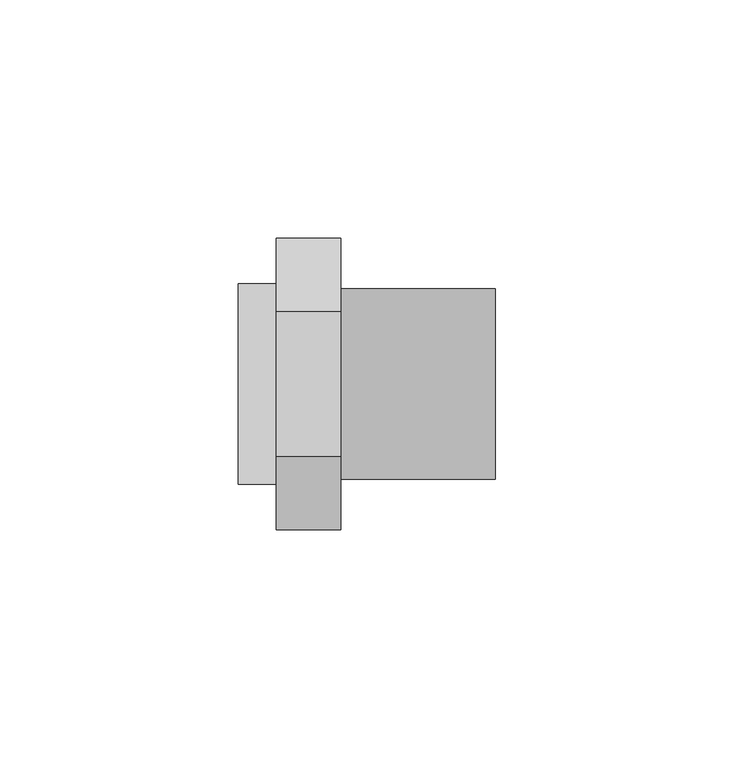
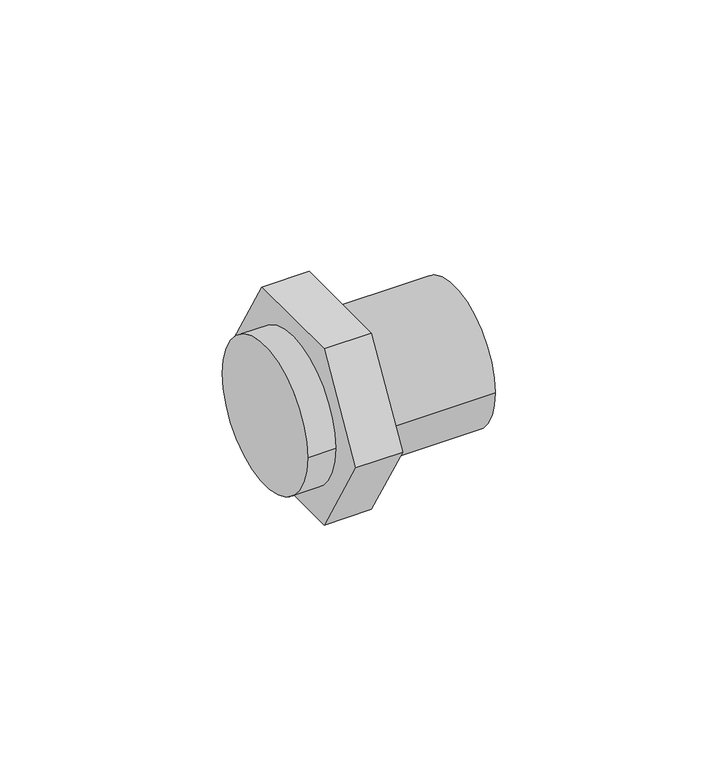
"""IFC4 building model written with IfcOpenShell, lengths in millimetres: pipe fitting geometry, 01101008 : Uniões múltiplas F/M/F."""

import ifcopenshell
import ifcopenshell.guid

model = None  # the IFC model being written
_history = None  # IfcOwnerHistory: only IFC2X3 demands one
_inside = {}  # id of a spatial element -> (the spatial element, [elements in it])
_under = {}  # id of a project, library or spatial element -> (it, [spatial elements below it])
_declared = {}  # id of a project -> (the project, [libraries it declares])
_typed = {}  # id of a type object -> (the type object, [elements of that type])
_made_of = {}  # id of a material, layer set ... -> (it, [elements and type objects made of it])


def new_model(schema):
    """Start an empty IFC model of exactly this schema.

    Asked for "IFC4X3", IfcOpenShell would pick the latest addendum, in which some entities
    have other attributes; the version numbers below select the first issue.
    IFC2X3 requires an IfcOwnerHistory on every rooted entity: one is made here for all.
    """
    global model, _history
    if schema == "IFC4X3":
        model = ifcopenshell.file(schema_version=(4, 3, 0, 0))
    else:
        model = ifcopenshell.file(schema=schema)
    _inside.clear()
    _under.clear()
    _declared.clear()
    _typed.clear()
    _made_of.clear()
    _history = None
    if model.schema == "IFC2X3":
        org = make("IfcOrganization", Name="unknown")
        user = make(
            "IfcPersonAndOrganization",
            ThePerson=make("IfcPerson", FamilyName="unknown"),
            TheOrganization=org,
        )
        app = make(
            "IfcApplication",
            ApplicationDeveloper=org,
            Version="unknown",
            ApplicationFullName="unknown",
            ApplicationIdentifier="unknown",
        )
        _history = make(
            "IfcOwnerHistory",
            OwningUser=user,
            OwningApplication=app,
            ChangeAction="ADDED",
            CreationDate=0,
        )
    return model


def make(cls, **values):
    """One entity of the class cls with the attributes given. An attribute that is None is left unset."""
    return model.create_entity(
        cls, **{name: value for name, value in values.items() if value is not None}
    )


def rooted(cls, **values):
    """An entity with a GlobalId (a new one), such as an element, a storey or a relation."""
    return make(cls, GlobalId=ifcopenshell.guid.new(), OwnerHistory=_history, **values)


def si_unit(unit_type, name, prefix=None):
    """IfcSIUnit, for example si_unit("LENGTHUNIT", "METRE", prefix="MILLI")."""
    return make("IfcSIUnit", UnitType=unit_type, Prefix=prefix, Name=name)


def assignment(units):
    """IfcUnitAssignment: the units of a project."""
    return None if units is None else make("IfcUnitAssignment", Units=units)


def point(xyz):
    """IfcCartesianPoint."""
    return None if xyz is None else make("IfcCartesianPoint", Coordinates=xyz)


def direction(xyz):
    """IfcDirection."""
    return None if xyz is None else make("IfcDirection", DirectionRatios=xyz)


def frame(location, z_axis=None, x_axis=None):
    """IfcAxis2Placement3D, a coordinate frame: its origin and axes. An axis left out is left unset."""
    return make(
        "IfcAxis2Placement3D",
        Location=point(location),
        Axis=direction(z_axis),
        RefDirection=direction(x_axis),
    )


def frame_2d(location, x_axis=None):
    """IfcAxis2Placement2D, a coordinate frame in the plane: its origin and x axis."""
    return make(
        "IfcAxis2Placement2D", Location=point(location), RefDirection=direction(x_axis)
    )


def origin():
    """The frame at (0, 0, 0) with its axes left unset."""
    return frame((0.0, 0.0, 0.0))


def origin_2d():
    """The frame at (0, 0) in the plane with its x axis left unset."""
    return frame_2d((0.0, 0.0))


def place(relative_to, where):
    """IfcLocalPlacement: puts the frame where relative to a parent placement (None: the world)."""
    return make(
        "IfcLocalPlacement", PlacementRelTo=relative_to, RelativePlacement=where
    )


def context(
    kind, dimensions, precision=None, world=None, true_north=None, identifier=None
):
    """IfcGeometricRepresentationContext, for example the 3D "Model" context."""
    return make(
        "IfcGeometricRepresentationContext",
        ContextIdentifier=identifier,
        ContextType=kind,
        CoordinateSpaceDimension=dimensions,
        Precision=precision,
        WorldCoordinateSystem=world,
        TrueNorth=true_north,
    )


def project(units=None, contexts=None):
    """IfcProject with its units and contexts."""
    return rooted(
        "IfcProject",
        Name="project",
        RepresentationContexts=contexts,
        UnitsInContext=assignment(units),
    )


def spatial(cls, under=None, at=None, **own):
    """A site, building, storey or space (cls), placed at a placement, below another one or the project."""
    s = rooted(cls, ObjectPlacement=at, **own)
    if under is not None:
        _under.setdefault(under.id(), (under, []))[1].append(s)
    return s


def polyline(points):
    """IfcPolyline through the points."""
    return make("IfcPolyline", Points=[point(p) for p in points])


def circle_curve(where, radius):
    """IfcCircle in the frame where."""
    return make("IfcCircle", Position=where, Radius=radius)


def trimmed(basis, trim1, trim2, sense, master):
    """IfcTrimmedCurve: the piece of a basis curve between two trims."""
    return make(
        "IfcTrimmedCurve",
        BasisCurve=basis,
        Trim1=trim1,
        Trim2=trim2,
        SenseAgreement=sense,
        MasterRepresentation=master,
    )


def segment(curve, same_sense, transition):
    """IfcCompositeCurveSegment."""
    return make(
        "IfcCompositeCurveSegment",
        Transition=transition,
        SameSense=same_sense,
        ParentCurve=curve,
    )


def composite_curve(segments, self_intersect=None):
    """IfcCompositeCurve: segments joined end to end."""
    return make("IfcCompositeCurve", Segments=segments, SelfIntersect=self_intersect)


def outline(outer, holes=None, kind="AREA"):
    """IfcArbitraryClosedProfileDef: a profile drawn as a closed curve; with holes, ...WithVoids."""
    if holes is None:
        return make("IfcArbitraryClosedProfileDef", ProfileType=kind, OuterCurve=outer)
    return make(
        "IfcArbitraryProfileDefWithVoids",
        ProfileType=kind,
        OuterCurve=outer,
        InnerCurves=holes,
    )


def extrude(swept, where, along, depth):
    """IfcExtrudedAreaSolid: the profile swept, set in the frame where, extruded along a direction by depth."""
    return make(
        "IfcExtrudedAreaSolid",
        SweptArea=swept,
        Position=where,
        ExtrudedDirection=direction(along),
        Depth=depth,
    )


def shape(context_of_items, identifier, shape_type, items):
    """IfcShapeRepresentation: the items that make up one representation, for example the "Body"."""
    return make(
        "IfcShapeRepresentation",
        ContextOfItems=context_of_items,
        RepresentationIdentifier=identifier,
        RepresentationType=shape_type,
        Items=items,
    )


def source(mapping_origin, context_of_items, identifier, shape_type, items):
    """IfcRepresentationMap: a shape defined once, which mapped items show again and again."""
    return make(
        "IfcRepresentationMap",
        MappingOrigin=mapping_origin,
        MappedRepresentation=shape(context_of_items, identifier, shape_type, items),
    )


def transform(
    local_origin,
    x_axis=None,
    y_axis=None,
    z_axis=None,
    scale=None,
    scale2=None,
    scale3=None,
    uniform=True,
):
    """IfcCartesianTransformationOperator3D, or its non-uniform kind. x_axis, y_axis, z_axis: its Axis1, 2, 3."""
    if uniform:
        return make(
            "IfcCartesianTransformationOperator3D",
            Axis1=direction(x_axis),
            Axis2=direction(y_axis),
            LocalOrigin=point(local_origin),
            Scale=scale,
            Axis3=direction(z_axis),
        )
    return make(
        "IfcCartesianTransformationOperator3DnonUniform",
        Axis1=direction(x_axis),
        Axis2=direction(y_axis),
        LocalOrigin=point(local_origin),
        Scale=scale,
        Axis3=direction(z_axis),
        Scale2=scale2,
        Scale3=scale3,
    )


def mapped(mapping_source, mapping_target):
    """IfcMappedItem: shows the shape of a source again, moved by a transform."""
    return make(
        "IfcMappedItem", MappingSource=mapping_source, MappingTarget=mapping_target
    )


def made_of(thing, what):
    """Note that an element or type object is made of a material, layer set ...; save() writes the relation."""
    if what is not None:
        _made_of.setdefault(what.id(), (what, []))[1].append(thing)
    return thing


def element(
    cls,
    number,
    at=None,
    inside=None,
    cuts=None,
    type_object=None,
    material=None,
    context=None,
    identifier="Body",
    shape_type=None,
    held_by="IfcProductDefinitionShape",
    body=None,
    shapes=None,
    **own,
):
    """One element of the class cls, such as IfcWall. Its Tag is "e" and its number.

    at: its placement. inside: the storey or other place that contains it. cuts: it is an
    opening in that element (IfcRelVoidsElement). A single representation is given by context,
    identifier, shape_type and body (its items); several are given by shapes. held_by: the class
    of the entity that holds the representations. save() writes the other relations.
    """
    e = rooted(cls, Tag="e%d" % number, ObjectPlacement=at, **own)
    if body is not None:
        shapes = [shape(context, identifier, shape_type, body)]
    if shapes is not None:
        e.Representation = make(held_by, Representations=shapes)
    if inside is not None:
        _inside.setdefault(inside.id(), (inside, []))[1].append(e)
    if cuts is not None:
        rooted(
            "IfcRelVoidsElement", RelatingBuildingElement=cuts, RelatedOpeningElement=e
        )
    if type_object is not None:
        _typed.setdefault(type_object.id(), (type_object, []))[1].append(e)
    return made_of(e, material)


def aggregate(whole, parts):
    """IfcRelAggregates: a whole, such as a stair, and the parts it consists of."""
    return rooted("IfcRelAggregates", RelatingObject=whole, RelatedObjects=parts)


def save(model, path):
    """Write the relations noted so far, then the file.

    IfcRelAggregates (storeys below a building ...), IfcRelContainedInSpatialStructure (elements
    in a storey), IfcRelDefinesByType, IfcRelAssociatesMaterial and IfcRelDeclares: one each for
    every whole, place, type object, material and project.
    """
    for whole, parts in _under.values():
        aggregate(whole, parts)
    for where, things in _inside.values():
        rooted(
            "IfcRelContainedInSpatialStructure",
            RelatedElements=things,
            RelatingStructure=where,
        )
    for kind, things in _typed.values():
        rooted("IfcRelDefinesByType", RelatedObjects=things, RelatingType=kind)
    for what, things in _made_of.values():
        rooted("IfcRelAssociatesMaterial", RelatedObjects=things, RelatingMaterial=what)
    for by, libraries in _declared.values():
        rooted("IfcRelDeclares", RelatingContext=by, RelatedDefinitions=libraries)
    model.write(path)


def pipe_fitting_94f608cb(model_context):
    return source(origin(), model_context, "Body", "SweptSolid", [
        extrude(outline(composite_curve([segment(trimmed(circle_curve(origin_2d(), 21.0), [point((21.0, 0.0))], [point((-21.0, 0.0))], False, "CARTESIAN"), True, "CONTINUOUS"), segment(trimmed(circle_curve(origin_2d(), 21.0), [point((-21.0, 0.0))], [point((21.0, 0.0))], False, "CARTESIAN"), True, "CONTINUOUS")], self_intersect=False)), frame((0.0, 0.0, 0.0), z_axis=(1.0, 0.0, 0.0), x_axis=(0.0, 1.0, 0.0)), (0.0, 0.0, 1.0), 8.0),
        extrude(outline(polyline([(-15.2997821, 26.5), (15.2997821, 26.5), (30.5995643, 0.0), (15.2997821, -26.5), (-15.2997821, -26.5), (-30.5995643, 0.0), (-15.2997821, 26.5)])), frame((8.0, 0.0, 0.0), z_axis=(1.0, 0.0, 0.0), x_axis=(0.0, 1.0, 0.0)), (0.0, 0.0, 1.0), 13.5),
        extrude(outline(composite_curve([segment(trimmed(circle_curve(origin_2d(), 20.0), [point((-20.0, 0.0))], [point((20.0, 0.0))], False, "CARTESIAN"), True, "CONTINUOUS"), segment(trimmed(circle_curve(origin_2d(), 20.0), [point((20.0, 0.0))], [point((-20.0, 0.0))], False, "CARTESIAN"), True, "CONTINUOUS")], self_intersect=False)), frame((21.5, 0.0, 0.0), z_axis=(1.0, 0.0, 0.0), x_axis=(0.0, 1.0, 0.0)), (0.0, 0.0, 1.0), 32.5),
    ])


if __name__ == "__main__":
    model = new_model("IFC4")
    model_context = context("Model", 3, world=origin())
    ifc_project = project(units=[si_unit("LENGTHUNIT", "METRE", prefix="MILLI")], contexts=[model_context])
    site = spatial("IfcSite", under=ifc_project)
    building = spatial("IfcBuilding", under=site)
    placement = place(None, origin())
    pipe_fitting_shape = pipe_fitting_94f608cb(model_context)
    element("IfcPipeFitting", 1, ObjectType="01101008 : Uniões múltiplas F/M/F", at=placement, inside=building, context=model_context, shape_type="MappedRepresentation", body=[
        mapped(pipe_fitting_shape, transform((0.0, 0.0, 0.0), x_axis=(1.0, 0.0, 0.0), y_axis=(0.0, 1.0, 0.0), z_axis=(0.0, 0.0, 1.0))),
    ])
    save(model, "model.ifc")
